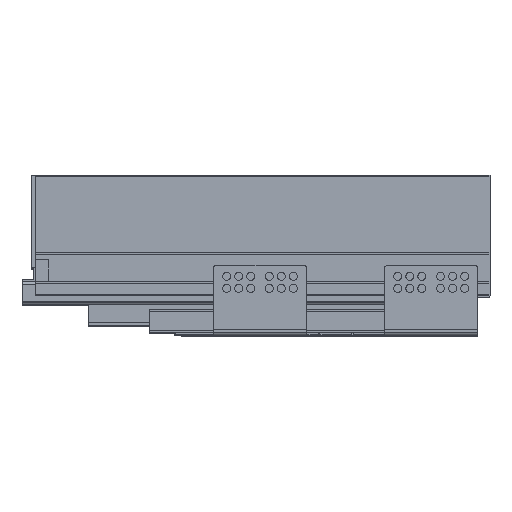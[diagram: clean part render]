
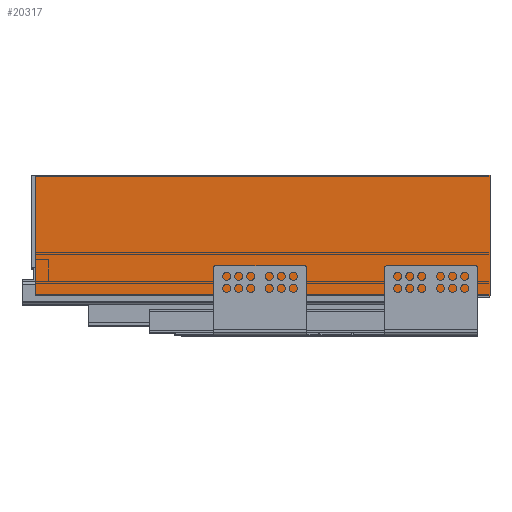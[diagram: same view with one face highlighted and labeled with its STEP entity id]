
A CAD part, top view. The second image highlights one B-rep face of the part: STEP entity #20317.
In plain terms, the highlighted planar face has unit normal (0, 0, 1).
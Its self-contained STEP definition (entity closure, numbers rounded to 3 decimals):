
#493=PLANE('',#21527);
#1340=FACE_OUTER_BOUND('',#2451,.T.);
#2451=EDGE_LOOP('',(#14230,#14231,#14232,#14233));
#3950=LINE('',#29267,#6271);
#3952=LINE('',#29271,#6273);
#3953=LINE('',#29273,#6274);
#3954=LINE('',#29274,#6275);
#6271=VECTOR('',#23599,10.);
#6273=VECTOR('',#23603,10.);
#6274=VECTOR('',#23604,10.);
#6275=VECTOR('',#23605,10.);
#9072=VERTEX_POINT('',#29264);
#9073=VERTEX_POINT('',#29266);
#9074=VERTEX_POINT('',#29270);
#9075=VERTEX_POINT('',#29272);
#11115=EDGE_CURVE('',#9072,#9073,#3950,.T.);
#11117=EDGE_CURVE('',#9072,#9074,#3952,.T.);
#11118=EDGE_CURVE('',#9074,#9075,#3953,.T.);
#11119=EDGE_CURVE('',#9075,#9073,#3954,.T.);
#14230=ORIENTED_EDGE('',*,*,#11117,.T.);
#14231=ORIENTED_EDGE('',*,*,#11118,.T.);
#14232=ORIENTED_EDGE('',*,*,#11119,.T.);
#14233=ORIENTED_EDGE('',*,*,#11115,.F.);
#20317=ADVANCED_FACE('',(#1340),#493,.F.);
#21527=AXIS2_PLACEMENT_3D('',#29269,#23601,#23602);
#23599=DIRECTION('',(1.,0.,0.));
#23601=DIRECTION('center_axis',(0.,0.,-1.));
#23602=DIRECTION('ref_axis',(0.,1.,0.));
#23603=DIRECTION('',(0.,-1.,0.));
#23604=DIRECTION('',(1.,0.,0.));
#23605=DIRECTION('',(0.,1.,0.));
#29264=CARTESIAN_POINT('',(0.,90.,535.));
#29266=CARTESIAN_POINT('',(340.,90.,535.));
#29267=CARTESIAN_POINT('',(0.,90.,535.));
#29269=CARTESIAN_POINT('Origin',(0.,0.,535.));
#29270=CARTESIAN_POINT('',(0.,0.,535.));
#29271=CARTESIAN_POINT('',(0.,90.,535.));
#29272=CARTESIAN_POINT('',(340.,0.,535.));
#29273=CARTESIAN_POINT('',(0.,0.,535.));
#29274=CARTESIAN_POINT('',(340.,90.,535.));
